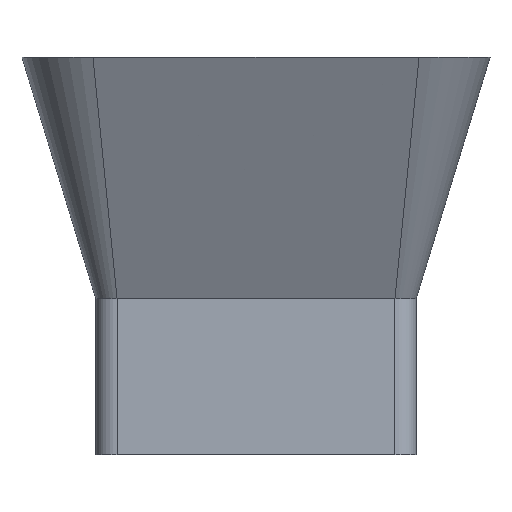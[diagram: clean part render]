
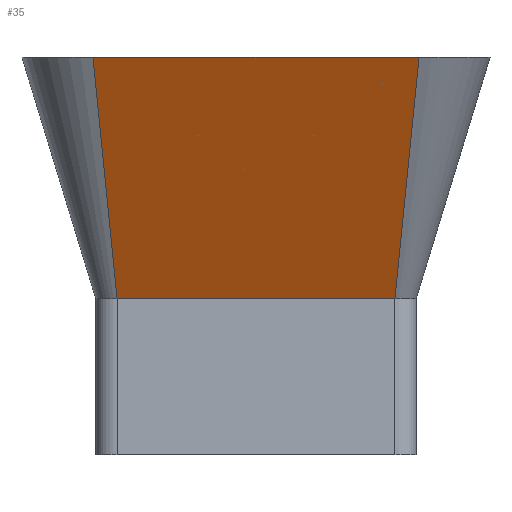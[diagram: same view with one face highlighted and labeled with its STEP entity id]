
A CAD part, left-side view. The second image highlights one B-rep face of the part: STEP entity #35.
In plain terms, the highlighted free-form (B-spline) face has degree [1, 1] with [2, 2] control points.
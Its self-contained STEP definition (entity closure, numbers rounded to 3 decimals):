
#35 = ADVANCED_FACE('',(#36),#50,.T.);
#36 = FACE_BOUND('',#37,.T.);
#37 = EDGE_LOOP('',(#38,#72,#113,#141));
#38 = ORIENTED_EDGE('',*,*,#39,.F.);
#39 = EDGE_CURVE('',#40,#42,#44,.T.);
#40 = VERTEX_POINT('',#41);
#41 = CARTESIAN_POINT('',(-3.1,-1.6,14.));
#42 = VERTEX_POINT('',#43);
#43 = CARTESIAN_POINT('',(-3.1,37.6,14.));
#44 = SURFACE_CURVE('',#45,(#49,#60),.PCURVE_S1.);
#45 = LINE('',#46,#47);
#46 = CARTESIAN_POINT('',(-3.1,18.,14.));
#47 = VECTOR('',#48,1.);
#48 = DIRECTION('',(0.,1.,0.));
#49 = PCURVE('',#50,#55);
#50 = B_SPLINE_SURFACE_WITH_KNOTS('',1,1,(
    (#51,#52)
    ,(#53,#54
  )),.UNSPECIFIED.,.F.,.F.,.F.,(2,2),(2,2),(-23.,23.),(0.,1.),
  .PIECEWISE_BEZIER_KNOTS.);
#51 = CARTESIAN_POINT('',(-3.1,37.6,14.));
#52 = CARTESIAN_POINT('',(-20.,41.,48.));
#53 = CARTESIAN_POINT('',(-3.1,-1.6,14.));
#54 = CARTESIAN_POINT('',(-20.,-5.,48.));
#55 = DEFINITIONAL_REPRESENTATION('',(#56),#59);
#56 = B_SPLINE_CURVE_WITH_KNOTS('',1,(#57,#58),.UNSPECIFIED.,.F.,.F.,(2,
    2),(-19.6,19.6),.PIECEWISE_BEZIER_KNOTS.);
#57 = CARTESIAN_POINT('',(23.,0.));
#58 = CARTESIAN_POINT('',(-23.,0.));
#59 = ( GEOMETRIC_REPRESENTATION_CONTEXT(2) 
PARAMETRIC_REPRESENTATION_CONTEXT() REPRESENTATION_CONTEXT('2D SPACE',''
  ) );
#60 = PCURVE('',#61,#66);
#61 = PLANE('',#62);
#62 = AXIS2_PLACEMENT_3D('',#63,#64,#65);
#63 = CARTESIAN_POINT('',(-3.1,-1.6,-8.));
#64 = DIRECTION('',(-1.,0.,0.));
#65 = DIRECTION('',(0.,1.,0.));
#66 = DEFINITIONAL_REPRESENTATION('',(#67),#71);
#67 = LINE('',#68,#69);
#68 = CARTESIAN_POINT('',(19.6,-22.));
#69 = VECTOR('',#70,1.);
#70 = DIRECTION('',(1.,0.));
#71 = ( GEOMETRIC_REPRESENTATION_CONTEXT(2) 
PARAMETRIC_REPRESENTATION_CONTEXT() REPRESENTATION_CONTEXT('2D SPACE',''
  ) );
#72 = ORIENTED_EDGE('',*,*,#73,.T.);
#73 = EDGE_CURVE('',#40,#74,#76,.T.);
#74 = VERTEX_POINT('',#75);
#75 = CARTESIAN_POINT('',(-20.,-5.,48.));
#76 = SURFACE_CURVE('',#77,(#80,#87),.PCURVE_S1.);
#77 = B_SPLINE_CURVE_WITH_KNOTS('',1,(#78,#79),.UNSPECIFIED.,.F.,.F.,(2,
    2),(0.,1.),.PIECEWISE_BEZIER_KNOTS.);
#78 = CARTESIAN_POINT('',(-3.1,-1.6,14.));
#79 = CARTESIAN_POINT('',(-20.,-5.,48.));
#80 = PCURVE('',#50,#81);
#81 = DEFINITIONAL_REPRESENTATION('',(#82),#86);
#82 = LINE('',#83,#84);
#83 = CARTESIAN_POINT('',(23.,0.));
#84 = VECTOR('',#85,1.);
#85 = DIRECTION('',(0.,1.));
#86 = ( GEOMETRIC_REPRESENTATION_CONTEXT(2) 
PARAMETRIC_REPRESENTATION_CONTEXT() REPRESENTATION_CONTEXT('2D SPACE',''
  ) );
#87 = PCURVE('',#88,#107);
#88 = B_SPLINE_SURFACE_WITH_KNOTS('',8,1,(
    (#89,#90)
    ,(#91,#92)
    ,(#93,#94)
    ,(#95,#96)
    ,(#97,#98)
    ,(#99,#100)
    ,(#101,#102)
    ,(#103,#104)
    ,(#105,#106
    )),.UNSPECIFIED.,.F.,.F.,.F.,(9,9),(2,2),(3.142,
    4.712),(0.,1.),.PIECEWISE_BEZIER_KNOTS.);
#89 = CARTESIAN_POINT('',(-3.1,-1.6,14.));
#90 = CARTESIAN_POINT('',(-20.,-5.,48.));
#91 = CARTESIAN_POINT('',(-3.1,-2.189,14.));
#92 = CARTESIAN_POINT('',(-20.,-6.963,48.));
#93 = CARTESIAN_POINT('',(-2.968,-2.778,
    14.));
#94 = CARTESIAN_POINT('',(-19.559,-8.927,48.));
#95 = CARTESIAN_POINT('',(-2.703,-3.333,
    14.));
#96 = CARTESIAN_POINT('',(-18.678,-10.775,
    48.));
#97 = CARTESIAN_POINT('',(-2.318,-3.818,14.)
  );
#98 = CARTESIAN_POINT('',(-17.393,-12.393,
    48.));
#99 = CARTESIAN_POINT('',(-1.833,-4.203,
    14.));
#100 = CARTESIAN_POINT('',(-15.775,-13.678,
    48.));
#101 = CARTESIAN_POINT('',(-1.278,-4.468,14.));
#102 = CARTESIAN_POINT('',(-13.927,-14.559,48.));
#103 = CARTESIAN_POINT('',(-0.689,-4.6,14.));
#104 = CARTESIAN_POINT('',(-11.963,-15.,48.));
#105 = CARTESIAN_POINT('',(-0.1,-4.6,14.));
#106 = CARTESIAN_POINT('',(-10.,-15.,48.));
#107 = DEFINITIONAL_REPRESENTATION('',(#108),#112);
#108 = LINE('',#109,#110);
#109 = CARTESIAN_POINT('',(3.142,0.));
#110 = VECTOR('',#111,1.);
#111 = DIRECTION('',(0.,1.));
#112 = ( GEOMETRIC_REPRESENTATION_CONTEXT(2) 
PARAMETRIC_REPRESENTATION_CONTEXT() REPRESENTATION_CONTEXT('2D SPACE',''
  ) );
#113 = ORIENTED_EDGE('',*,*,#114,.T.);
#114 = EDGE_CURVE('',#74,#115,#117,.T.);
#115 = VERTEX_POINT('',#116);
#116 = CARTESIAN_POINT('',(-20.,41.,48.));
#117 = SURFACE_CURVE('',#118,(#122,#129),.PCURVE_S1.);
#118 = LINE('',#119,#120);
#119 = CARTESIAN_POINT('',(-20.,18.,48.));
#120 = VECTOR('',#121,1.);
#121 = DIRECTION('',(0.,1.,0.));
#122 = PCURVE('',#50,#123);
#123 = DEFINITIONAL_REPRESENTATION('',(#124),#128);
#124 = LINE('',#125,#126);
#125 = CARTESIAN_POINT('',(0.,1.));
#126 = VECTOR('',#127,1.);
#127 = DIRECTION('',(-1.,0.));
#128 = ( GEOMETRIC_REPRESENTATION_CONTEXT(2) 
PARAMETRIC_REPRESENTATION_CONTEXT() REPRESENTATION_CONTEXT('2D SPACE',''
  ) );
#129 = PCURVE('',#130,#135);
#130 = PLANE('',#131);
#131 = AXIS2_PLACEMENT_3D('',#132,#133,#134);
#132 = CARTESIAN_POINT('',(-10.,-5.,48.));
#133 = DIRECTION('',(0.,0.,-1.));
#134 = DIRECTION('',(-1.,0.,0.));
#135 = DEFINITIONAL_REPRESENTATION('',(#136),#140);
#136 = LINE('',#137,#138);
#137 = CARTESIAN_POINT('',(10.,23.));
#138 = VECTOR('',#139,1.);
#139 = DIRECTION('',(0.,1.));
#140 = ( GEOMETRIC_REPRESENTATION_CONTEXT(2) 
PARAMETRIC_REPRESENTATION_CONTEXT() REPRESENTATION_CONTEXT('2D SPACE',''
  ) );
#141 = ORIENTED_EDGE('',*,*,#142,.F.);
#142 = EDGE_CURVE('',#42,#115,#143,.T.);
#143 = SURFACE_CURVE('',#144,(#147,#154),.PCURVE_S1.);
#144 = B_SPLINE_CURVE_WITH_KNOTS('',1,(#145,#146),.UNSPECIFIED.,.F.,.F.,
  (2,2),(0.,1.),.PIECEWISE_BEZIER_KNOTS.);
#145 = CARTESIAN_POINT('',(-3.1,37.6,14.));
#146 = CARTESIAN_POINT('',(-20.,41.,48.));
#147 = PCURVE('',#50,#148);
#148 = DEFINITIONAL_REPRESENTATION('',(#149),#153);
#149 = LINE('',#150,#151);
#150 = CARTESIAN_POINT('',(-23.,0.));
#151 = VECTOR('',#152,1.);
#152 = DIRECTION('',(0.,1.));
#153 = ( GEOMETRIC_REPRESENTATION_CONTEXT(2) 
PARAMETRIC_REPRESENTATION_CONTEXT() REPRESENTATION_CONTEXT('2D SPACE',''
  ) );
#154 = PCURVE('',#155,#174);
#155 = B_SPLINE_SURFACE_WITH_KNOTS('',8,1,(
    (#156,#157)
    ,(#158,#159)
    ,(#160,#161)
    ,(#162,#163)
    ,(#164,#165)
    ,(#166,#167)
    ,(#168,#169)
    ,(#170,#171)
    ,(#172,#173
    )),.UNSPECIFIED.,.F.,.F.,.F.,(9,9),(2,2),(1.571,
    3.142),(0.,1.),.PIECEWISE_BEZIER_KNOTS.);
#156 = CARTESIAN_POINT('',(-0.1,40.6,14.));
#157 = CARTESIAN_POINT('',(-10.,51.,48.));
#158 = CARTESIAN_POINT('',(-0.689,40.6,14.));
#159 = CARTESIAN_POINT('',(-11.963,51.,
    48.));
#160 = CARTESIAN_POINT('',(-1.278,40.468,14.));
#161 = CARTESIAN_POINT('',(-13.927,50.559,
    48.));
#162 = CARTESIAN_POINT('',(-1.833,40.203,
    14.));
#163 = CARTESIAN_POINT('',(-15.775,49.678,
    48.));
#164 = CARTESIAN_POINT('',(-2.318,39.818,14.));
#165 = CARTESIAN_POINT('',(-17.393,48.393,
    48.));
#166 = CARTESIAN_POINT('',(-2.703,39.333,14.));
#167 = CARTESIAN_POINT('',(-18.678,46.775,
    48.));
#168 = CARTESIAN_POINT('',(-2.968,38.778,14.));
#169 = CARTESIAN_POINT('',(-19.559,44.927,
    48.));
#170 = CARTESIAN_POINT('',(-3.1,38.189,14.));
#171 = CARTESIAN_POINT('',(-20.,42.963,48.));
#172 = CARTESIAN_POINT('',(-3.1,37.6,14.));
#173 = CARTESIAN_POINT('',(-20.,41.,48.));
#174 = DEFINITIONAL_REPRESENTATION('',(#175),#179);
#175 = LINE('',#176,#177);
#176 = CARTESIAN_POINT('',(3.142,0.));
#177 = VECTOR('',#178,1.);
#178 = DIRECTION('',(0.,1.));
#179 = ( GEOMETRIC_REPRESENTATION_CONTEXT(2) 
PARAMETRIC_REPRESENTATION_CONTEXT() REPRESENTATION_CONTEXT('2D SPACE',''
  ) );
